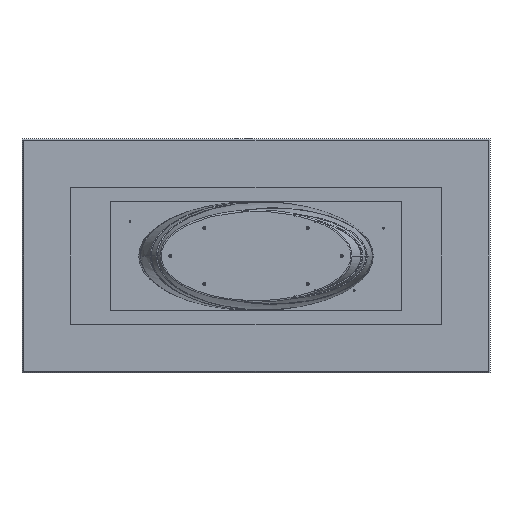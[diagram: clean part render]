
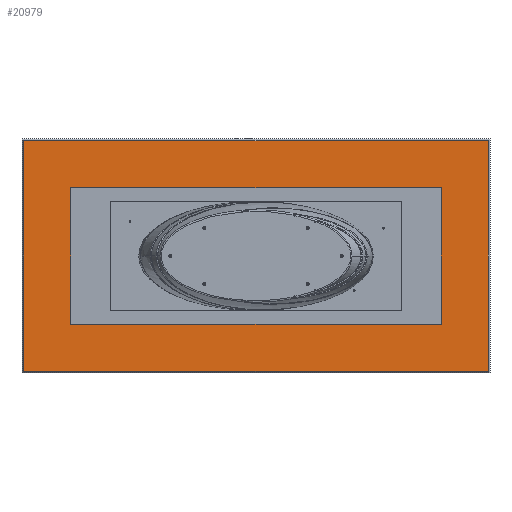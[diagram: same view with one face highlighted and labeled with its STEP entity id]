
A CAD part, front view. The second image highlights one B-rep face of the part: STEP entity #20979.
In plain terms, the highlighted planar face has unit normal (0, -1, 0).
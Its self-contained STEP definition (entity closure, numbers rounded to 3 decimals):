
#278 = CARTESIAN_POINT ( 'NONE',  ( -1200., 65., 590. ) ) ;
#800 = CARTESIAN_POINT ( 'NONE',  ( 1190., 65., 590. ) ) ;
#2834 = PLANE ( 'NONE',  #5651 ) ;
#2903 = LINE ( 'NONE', #37014, #5017 ) ;
#5017 = VECTOR ( 'NONE', #20334, 1000. ) ;
#5651 = AXIS2_PLACEMENT_3D ( 'NONE', #19694, #28237, #37519 ) ;
#8317 = VERTEX_POINT ( 'NONE', #30414 ) ;
#12628 = EDGE_CURVE ( 'NONE', #8317, #29106, #21079, .T. ) ;
#12827 = EDGE_CURVE ( 'NONE', #29106, #31916, #31768, .T. ) ;
#13465 = VECTOR ( 'NONE', #23413, 1000. ) ;
#13569 = EDGE_CURVE ( 'NONE', #29992, #8317, #23233, .T. ) ;
#15851 = VECTOR ( 'NONE', #22869, 1000. ) ;
#17152 = CARTESIAN_POINT ( 'NONE',  ( -1190., 65., -590. ) ) ;
#19694 = CARTESIAN_POINT ( 'NONE',  ( 0., 65., 0. ) ) ;
#20334 = DIRECTION ( 'NONE',  ( 0., 0., 1. ) ) ;
#20979 = ADVANCED_FACE ( 'NONE', ( #31454 ), #2834, .T. ) ;
#21079 = LINE ( 'NONE', #26778, #26765 ) ;
#21878 = EDGE_CURVE ( 'NONE', #31916, #29992, #2903, .T. ) ;
#22869 = DIRECTION ( 'NONE',  ( 1., 0., 0. ) ) ;
#23233 = LINE ( 'NONE', #278, #13465 ) ;
#23413 = DIRECTION ( 'NONE',  ( -1., 0., 0. ) ) ;
#25495 = EDGE_LOOP ( 'NONE', ( #26567, #33031, #26433, #29095 ) ) ;
#26433 = ORIENTED_EDGE ( 'NONE', *, *, #21878, .T. ) ;
#26567 = ORIENTED_EDGE ( 'NONE', *, *, #12628, .T. ) ;
#26765 = VECTOR ( 'NONE', #32832, 1000. ) ;
#26778 = CARTESIAN_POINT ( 'NONE',  ( -1190., 65., -600. ) ) ;
#28237 = DIRECTION ( 'NONE',  ( 0., -1., 0. ) ) ;
#29095 = ORIENTED_EDGE ( 'NONE', *, *, #13569, .T. ) ;
#29106 = VERTEX_POINT ( 'NONE', #17152 ) ;
#29149 = CARTESIAN_POINT ( 'NONE',  ( 1190., 65., -590. ) ) ;
#29992 = VERTEX_POINT ( 'NONE', #800 ) ;
#30414 = CARTESIAN_POINT ( 'NONE',  ( -1190., 65., 590. ) ) ;
#31454 = FACE_OUTER_BOUND ( 'NONE', #25495, .T. ) ;
#31768 = LINE ( 'NONE', #35294, #15851 ) ;
#31916 = VERTEX_POINT ( 'NONE', #29149 ) ;
#32832 = DIRECTION ( 'NONE',  ( 0., 0., -1. ) ) ;
#33031 = ORIENTED_EDGE ( 'NONE', *, *, #12827, .T. ) ;
#35294 = CARTESIAN_POINT ( 'NONE',  ( 1200., 65., -590. ) ) ;
#37014 = CARTESIAN_POINT ( 'NONE',  ( 1190., 65., 600. ) ) ;
#37519 = DIRECTION ( 'NONE',  ( 0., 0., -1. ) ) ;
